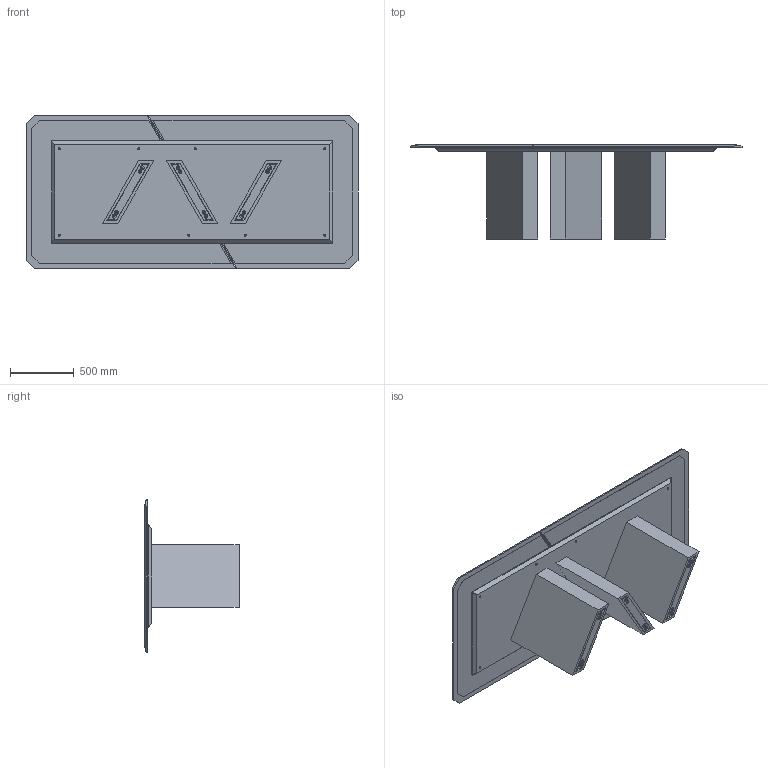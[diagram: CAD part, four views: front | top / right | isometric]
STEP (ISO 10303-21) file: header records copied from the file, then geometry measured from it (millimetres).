
FILE_DESCRIPTION (( 'STEP AP214' ), '1' );
FILE_NAME ('PlatiumClass_260 x120.STEP', '2026-05-05T09:29:43', ( '' ), ( '' ), 'SwSTEP 2.0', 'SolidWorks 2025', '' );
FILE_SCHEMA (( 'AUTOMOTIVE_DESIGN' ));
Length unit declared in the file: millimetre
Products named in the file (12): PlatinumClass_Assieme_SOTTOPIANO_GOMMINA_PlatiumClass_260 x 120; PlatiumClass_RIVESTIMENTO_UNICO_GAMBA_MARMO; PlatiumClass_260 x120; PlatinumClass_ASSIEME_GAMBA_UNICO_MARMO; PlatinumClass_tavolo_300 x 120_PlatiumClass_PIANO_260 x120 OPZ40; PlatiumClass_PIASTRINA_GAMBA; PlatiumClass_DISTANZIALE_TAVOLO_Piatto_Metallo_Piano_120_xD; PlatiumClass_PIANO_(260 280 300) x (120 e 140)_Buratti_TAVOLO_260 x 120 OPZ40; PlatiumClass_LAMIERA_Lamiera 260 x120 OPZ 40; PlatiumClass_GOMMINA_SOTTOPIANO_PlatiumClass_260 x 120_GOMMINA_SOTTOPIANO; PlatiumClass_SOTTOPIANO_SOTTOPIANO_260 x 120; PlatiumClass_GAMBA_h70
Assembly tree (18 placements, depth 3):
  PlatiumClass_260 x120
    PlatinumClass_Assieme_SOTTOPIANO_GOMMINA_PlatiumClass_260 x 120
      PlatiumClass_SOTTOPIANO_SOTTOPIANO_260 x 120
      PlatiumClass_GOMMINA_SOTTOPIANO_PlatiumClass_260 x 120_GOMMINA_SOTTOPIANO
    PlatinumClass_ASSIEME_GAMBA_UNICO_MARMO  x3
      PlatiumClass_GAMBA_h70
      PlatiumClass_RIVESTIMENTO_UNICO_GAMBA_MARMO
      PlatiumClass_PIASTRINA_GAMBA
    PlatinumClass_tavolo_300 x 120_PlatiumClass_PIANO_260 x120 OPZ40
      PlatiumClass_PIANO_(260 280 300) x (120 e 140)_Buratti_TAVOLO_260 x 120 OPZ40  x2
      PlatiumClass_DISTANZIALE_TAVOLO_Piatto_Metallo_Piano_120_xD
      PlatiumClass_LAMIERA_Lamiera 260 x120 OPZ 40  x2
Bounding box: 2600 x 736.5 x 1200 mm (x, y, z)
Volume: 229549090 mm3; surface area: 23897050.8 mm2
Topology: 25 solids, 25 shells, 612 faces, 1514 edges, 996 vertices
Faces by surface type: plane 340, cylinder 256, cone 16
Entity records: 9209 total; most frequent: CARTESIAN_POINT 1822, DIRECTION 1521, ORIENTED_EDGE 1390, EDGE_CURVE 695, AXIS2_PLACEMENT_3D 553, VERTEX_POINT 462, LINE 415, VECTOR 415
